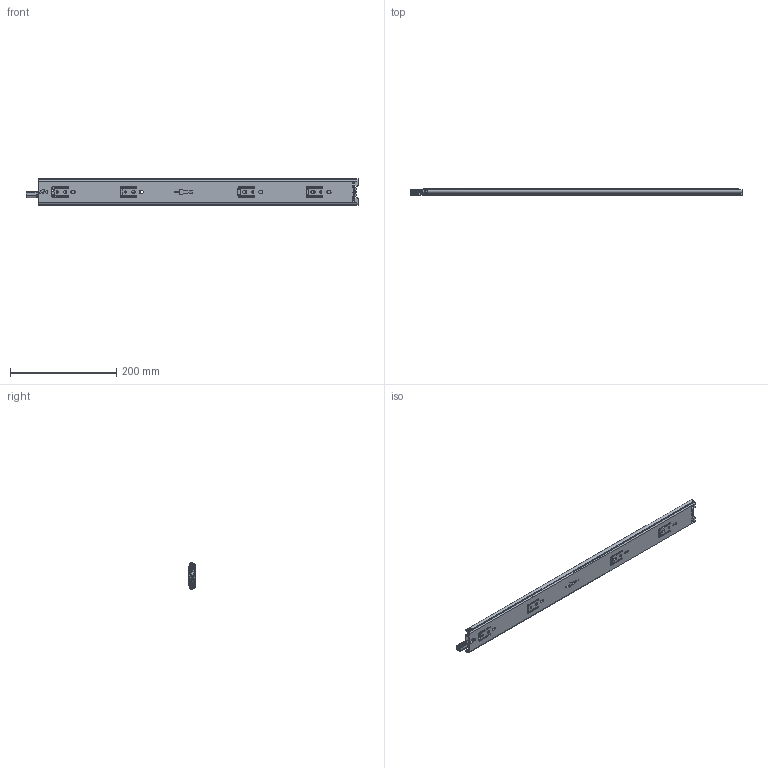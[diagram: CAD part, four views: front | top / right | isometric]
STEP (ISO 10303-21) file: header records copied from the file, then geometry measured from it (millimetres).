
FILE_DESCRIPTION((''),'2;1');
FILE_NAME('755013-600LOCK-CLOSE_ASM_ASM','2023-05-06T',('jishu015'),(''),'PRO/ENGINEER BY PARAMETRIC TECHNOLOGY CORPORATION, 2010280','PRO/ENGINEER BY PARAMETRIC TECHNOLOGY CORPORATION, 2010280','');
FILE_SCHEMA(('CONFIG_CONTROL_DESIGN'));
Products named in the file (20): KP-50-01WAIKE1811_2; KP-50-01ZHONGGIU20____1; ZHONGGUIPEIJIAN_______________1; 50BAIKOU____________1; KP-53-01ZHONGGUI-1854_____ASM_2_ASM; KP-50-01ZHUJIA-16GE43_____1; 4-76GANZHU__________________1; KP-50-01ZHUJIA-16GE23_____ASM_1_ASM; KP-50-01NEIGUI1832__2; YH1050BANJI_______________2; PIAN_______________1; JIAO_______________2; DAOPIAN____________1; ZOU-1____________2; KP53-0NEIGUI__________________A_ASM; 50ZHUTIAO__________________1; 50ZHUTIAO__________________ASM__ASM; CHANGGUI1045WEIJIAO232___1; KP-50-3S-24ZUO_ASM_2_ASM; 755013-600LOCK-CLOSE_ASM_ASM
Assembly tree (73 placements, depth 4):
  755013-600LOCK-CLOSE_ASM_ASM
    KP-50-3S-24ZUO_ASM_2_ASM
      KP-50-01WAIKE1811_2
      KP-53-01ZHONGGUI-1854_____ASM_2_ASM
        KP-50-01ZHONGGIU20____1
        ZHONGGUIPEIJIAN_______________1
        50BAIKOU____________1
      KP-50-01ZHUJIA-16GE23_____ASM_1_ASM
        KP-50-01ZHUJIA-16GE43_____1
        4-76GANZHU__________________1  x44
      KP53-0NEIGUI__________________A_ASM
        KP-50-01NEIGUI1832__2
        YH1050BANJI_______________2
        PIAN_______________1
        JIAO_______________2
        DAOPIAN____________1
        ZOU-1____________2
      50ZHUTIAO__________________ASM__ASM  x2
        50ZHUTIAO__________________1
        4-76GANZHU__________________1
      CHANGGUI1045WEIJIAO232___1
Bounding box: 623.8 x 13 x 50 mm (x, y, z)
Volume: 180033.5 mm3; surface area: 237931.9 mm2
Topology: 78 solids, 79 shells, 2109 faces, 6435 edges, 4084 vertices
Faces by surface type: cylinder 895, plane 815, sphere 194, bspline 144, extrusion 24, torus 23, cone 14
Entity records: 70751 total; most frequent: CARTESIAN_POINT 18876, ORIENTED_EDGE 11186, DIRECTION 10603, EDGE_CURVE 5595, AXIS2_PLACEMENT_3D 3661, VERTEX_POINT 3634, VECTOR 3281, LINE 3257
